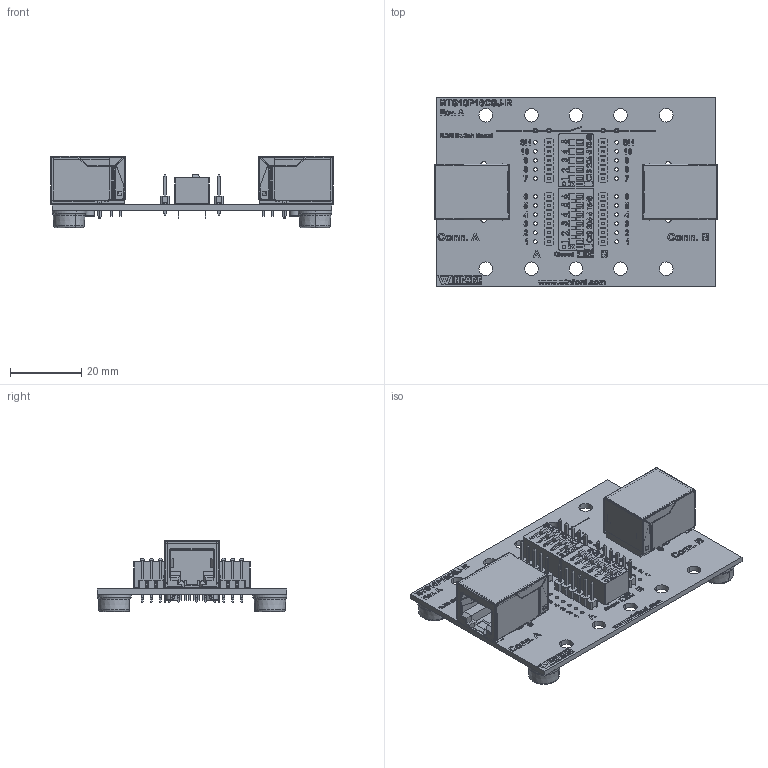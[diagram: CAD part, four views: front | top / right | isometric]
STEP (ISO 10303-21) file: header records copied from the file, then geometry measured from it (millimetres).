
FILE_DESCRIPTION (( 'STEP AP214' ), '1' );
FILE_NAME ('bts10p10csj-r-ft_rev_a.step', '2022-01-05T20:21:42', ( '' ), ( '' ), 'SwSTEP 2.0', 'SolidWorks 2018', '' );
FILE_SCHEMA (( 'AUTOMOTIVE_DESIGN' ));
Length unit declared in the file: inch
Products named in the file (8): bts10p10csj-r-ft_rev_a; Modular Jack 10P10C Right angle shielded; RubberFoot_round; bts10p10csj-r_PCB; DIP Switch 5 Pin; DIP Switch 6 Pin; single row header- 5 position; single row header- 6 position
Assembly tree (13 placements, depth 2):
  bts10p10csj-r-ft_rev_a
    bts10p10csj-r_PCB
    Modular Jack 10P10C Right angle shielded  x2
    DIP Switch 6 Pin
    DIP Switch 5 Pin
    single row header- 6 position  x2
    single row header- 5 position  x2
    RubberFoot_round  x4
Bounding box: 79.57 x 53.34 x 20.07 mm (x, y, z)
Volume: 15163.6 mm3; surface area: 26438.1 mm2
Topology: 72 solids, 72 shells, 5464 faces, 14385 edges, 9312 vertices
Faces by surface type: plane 3807, bspline 969, cylinder 660, torus 16, cone 12
Entity records: 233136 total; most frequent: CARTESIAN_POINT 79085, ORIENTED_EDGE 23326, DIRECTION 17536, EDGE_CURVE 11663, LINE 8706, VECTOR 8706, VERTEX_POINT 7637, EDGE_LOOP 4914
